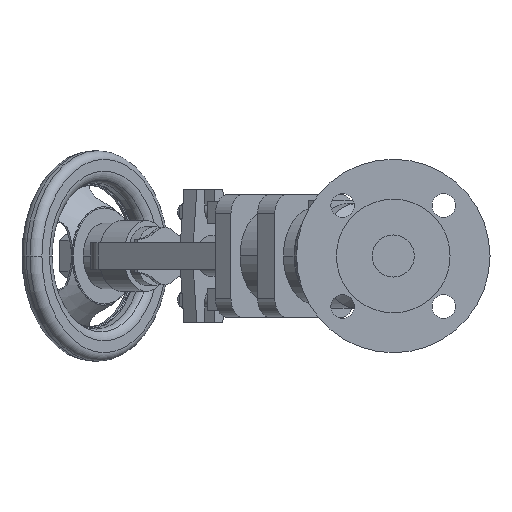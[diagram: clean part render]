
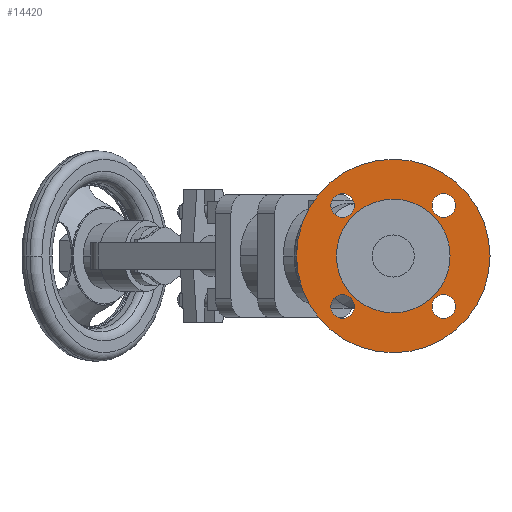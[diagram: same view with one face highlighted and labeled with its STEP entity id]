
A CAD part, left-side view. The second image highlights one B-rep face of the part: STEP entity #14420.
In plain terms, the highlighted planar face has unit normal (-1, 0, 0).
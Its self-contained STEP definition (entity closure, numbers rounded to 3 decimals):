
#3680=CARTESIAN_POINT('',(3.2,33.78,0.));
#3690=VERTEX_POINT('',#3680);
#3850=CARTESIAN_POINT('',(3.2,-33.78,0.));
#3860=VERTEX_POINT('',#3850);
#3890=CARTESIAN_POINT('',(3.2,0.,0.));
#3900=DIRECTION('',(-1.,0.,0.));
#3910=DIRECTION('',(0.,1.,0.));
#3920=AXIS2_PLACEMENT_3D('',#3890,#3900,#3910);
#3930=CIRCLE('',#3920,33.78);
#3940=EDGE_CURVE('',#3690,#3860,#3930,.T.);
#6650=CARTESIAN_POINT('',(3.2,0.,-57.5));
#6660=VERTEX_POINT('',#6650);
#6840=CARTESIAN_POINT('',(3.2,0.,57.5));
#6850=VERTEX_POINT('',#6840);
#6880=CARTESIAN_POINT('',(3.2,0.,0.));
#6890=DIRECTION('',(1.,0.,0.));
#6900=DIRECTION('',(0.,0.,-1.));
#6910=AXIS2_PLACEMENT_3D('',#6880,#6890,#6900);
#6920=CIRCLE('',#6910,57.5);
#6930=EDGE_CURVE('',#6660,#6850,#6920,.T.);
#7140=CARTESIAN_POINT('',(3.2,30.052,-23.052));
#7150=VERTEX_POINT('',#7140);
#7330=CARTESIAN_POINT('',(3.2,30.052,-37.052));
#7340=VERTEX_POINT('',#7330);
#7370=CARTESIAN_POINT('',(3.2,30.052,-30.052));
#7380=DIRECTION('',(-1.,0.,0.));
#7390=DIRECTION('',(0.,0.,-1.));
#7400=AXIS2_PLACEMENT_3D('',#7370,#7380,#7390);
#7410=CIRCLE('',#7400,7.);
#7420=EDGE_CURVE('',#7150,#7340,#7410,.T.);
#7630=CARTESIAN_POINT('',(3.2,-30.052,-37.052));
#7640=VERTEX_POINT('',#7630);
#7690=CARTESIAN_POINT('',(3.2,-30.052,-30.052));
#7700=DIRECTION('',(-1.,0.,0.));
#7710=DIRECTION('',(0.,0.,-1.));
#7720=AXIS2_PLACEMENT_3D('',#7690,#7700,#7710);
#7730=CIRCLE('',#7720,7.);
#7740=CARTESIAN_POINT('',(3.2,-30.052,-23.052));
#7750=VERTEX_POINT('',#7740);
#7760=EDGE_CURVE('',#7750,#7640,#7730,.T.);
#8120=CARTESIAN_POINT('',(3.2,30.052,23.052));
#8130=VERTEX_POINT('',#8120);
#8310=CARTESIAN_POINT('',(3.2,30.052,37.052));
#8320=VERTEX_POINT('',#8310);
#8350=CARTESIAN_POINT('',(3.2,30.052,30.052));
#8360=DIRECTION('',(-1.,0.,0.));
#8370=DIRECTION('',(0.,0.,-1.));
#8380=AXIS2_PLACEMENT_3D('',#8350,#8360,#8370);
#8390=CIRCLE('',#8380,7.);
#8400=EDGE_CURVE('',#8130,#8320,#8390,.T.);
#8610=CARTESIAN_POINT('',(3.2,-30.052,37.052));
#8620=VERTEX_POINT('',#8610);
#8800=CARTESIAN_POINT('',(3.2,-30.052,23.052));
#8810=VERTEX_POINT('',#8800);
#8840=CARTESIAN_POINT('',(3.2,-30.052,30.052));
#8850=DIRECTION('',(-1.,0.,0.));
#8860=DIRECTION('',(0.,0.,-1.));
#8870=AXIS2_PLACEMENT_3D('',#8840,#8850,#8860);
#8880=CIRCLE('',#8870,7.);
#8890=EDGE_CURVE('',#8620,#8810,#8880,.T.);
#14070=CARTESIAN_POINT('',(3.2,0.,0.));
#14080=DIRECTION('',(1.,0.,0.));
#14090=DIRECTION('',(0.,0.,-1.));
#14100=AXIS2_PLACEMENT_3D('',#14070,#14080,#14090);
#14110=PLANE('',#14100);
#14120=EDGE_CURVE('',#8810,#8620,#8880,.T.);
#14130=ORIENTED_EDGE('',*,*,#14120,.F.);
#14140=ORIENTED_EDGE('',*,*,#8890,.F.);
#14150=EDGE_LOOP('',(#14140,#14130));
#14160=FACE_BOUND('',#14150,.T.);
#14170=EDGE_CURVE('',#8320,#8130,#8390,.T.);
#14180=ORIENTED_EDGE('',*,*,#14170,.F.);
#14190=ORIENTED_EDGE('',*,*,#8400,.F.);
#14200=EDGE_LOOP('',(#14190,#14180));
#14210=FACE_BOUND('',#14200,.T.);
#14220=EDGE_CURVE('',#7640,#7750,#7730,.T.);
#14230=ORIENTED_EDGE('',*,*,#14220,.F.);
#14240=ORIENTED_EDGE('',*,*,#7760,.F.);
#14250=EDGE_LOOP('',(#14240,#14230));
#14260=FACE_BOUND('',#14250,.T.);
#14270=EDGE_CURVE('',#7340,#7150,#7410,.T.);
#14280=ORIENTED_EDGE('',*,*,#14270,.F.);
#14290=ORIENTED_EDGE('',*,*,#7420,.F.);
#14300=EDGE_LOOP('',(#14290,#14280));
#14310=FACE_BOUND('',#14300,.T.);
#14320=EDGE_CURVE('',#6850,#6660,#6920,.T.);
#14330=ORIENTED_EDGE('',*,*,#14320,.F.);
#14340=ORIENTED_EDGE('',*,*,#6930,.F.);
#14350=EDGE_LOOP('',(#14340,#14330));
#14360=FACE_OUTER_BOUND('',#14350,.T.);
#14370=EDGE_CURVE('',#3860,#3690,#3930,.T.);
#14380=ORIENTED_EDGE('',*,*,#14370,.F.);
#14390=ORIENTED_EDGE('',*,*,#3940,.F.);
#14400=EDGE_LOOP('',(#14390,#14380));
#14410=FACE_BOUND('',#14400,.T.);
#14420=ADVANCED_FACE('',(#14160,#14210,#14260,#14310,#14360,#14410),
#14110,.F.);
